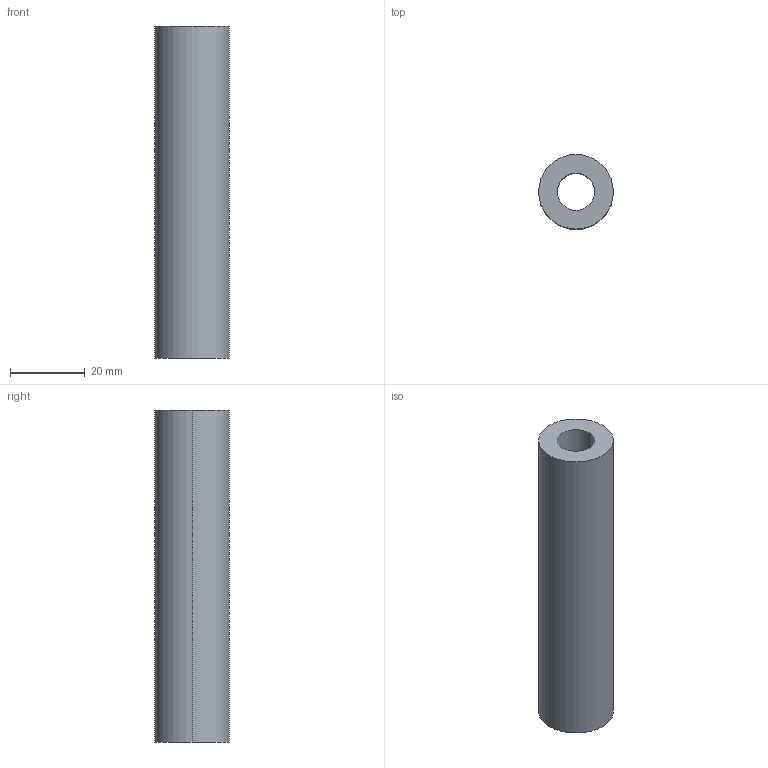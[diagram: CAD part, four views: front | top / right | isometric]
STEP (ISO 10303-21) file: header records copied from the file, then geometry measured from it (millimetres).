
FILE_DESCRIPTION (( 'STEP AP214' ), '1' );
FILE_NAME ('BRV-20X089.STEP', '2020-07-22T09:49:20', ( 'August' ), ( '' ), 'SwSTEP 2.0', 'SolidWorks 2018', '' );
FILE_SCHEMA (( 'AUTOMOTIVE_DESIGN' ));
Length unit declared in the file: millimetre
Products named in the file (1): BRV-20X089
Bounding box: 20 x 20 x 89 mm (x, y, z)
Volume: 20970.1 mm3; surface area: 8859.3 mm2
Topology: 1 solids, 1 shells, 6 faces, 12 edges, 8 vertices
Faces by surface type: cylinder 4, plane 2
Entity records: 202 total; most frequent: DIRECTION 34, CARTESIAN_POINT 27, ORIENTED_EDGE 24, AXIS2_PLACEMENT_3D 15, EDGE_CURVE 12, EDGE_LOOP 8, VERTEX_POINT 8, CIRCLE 8
